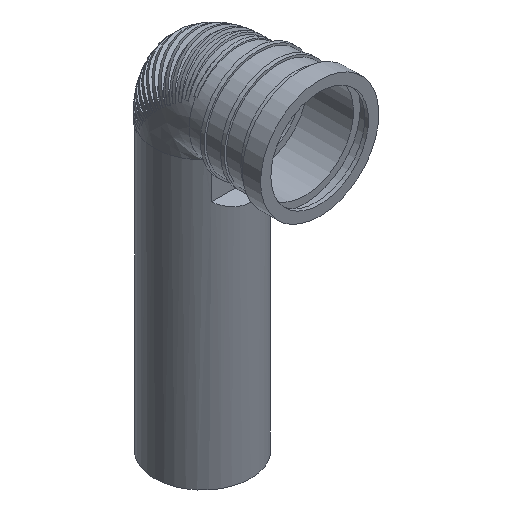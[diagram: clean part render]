
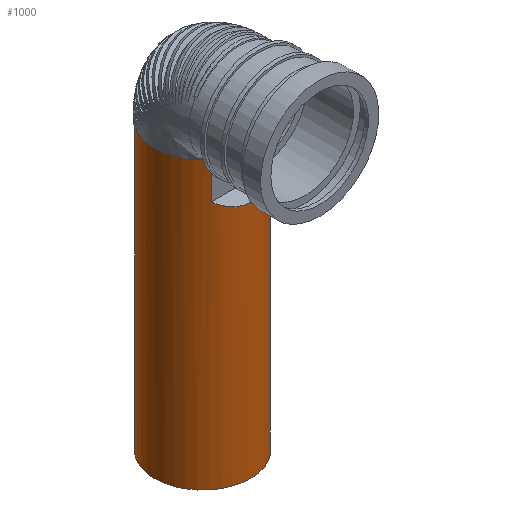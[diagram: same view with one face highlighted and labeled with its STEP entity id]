
A CAD part, isometric view. The second image highlights one B-rep face of the part: STEP entity #1000.
In plain terms, the highlighted cylindrical face has radius 45.188 mm (diameter 90.375 mm), a full revolution.
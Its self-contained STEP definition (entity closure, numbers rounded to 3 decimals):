
#21=LINE('',#2350,#31);
#22=LINE('',#2352,#32);
#23=LINE('',#2355,#33);
#24=LINE('',#2356,#34);
#31=VECTOR('',#1290,1.62);
#32=VECTOR('',#1291,31.212);
#33=VECTOR('',#1294,31.213);
#34=VECTOR('',#1295,1.62);
#39=ELLIPSE('',#1113,63.905,45.188);
#40=ELLIPSE('',#1114,63.905,45.188);
#41=ELLIPSE('',#1117,63.905,45.188);
#106=B_SPLINE_CURVE_WITH_KNOTS('',3,(#2324,#2325,#2326,#2327,#2328,#2329,
#2330,#2331,#2332,#2333,#2334,#2335,#2336,#2337,#2338,#2339,#2340,#2341,
#2342,#2343,#2344,#2345,#2346,#2347,#2348,#2349),.UNSPECIFIED.,.F.,.F.,
(4,2,2,2,2,2,2,2,2,2,2,2,4),(-11.364,-11.064,-10.213,
-9.362,-8.511,-7.66,-6.809,
-5.958,-5.107,-4.255,-3.404,
-2.553,-2.253),.UNSPECIFIED.);
#172=FACE_BOUND('',#294,.T.);
#202=FACE_OUTER_BOUND('',#293,.T.);
#293=EDGE_LOOP('',(#766,#767,#768,#769,#770,#771,#772,#773,#774,#775));
#294=EDGE_LOOP('',(#776));
#387=CIRCLE('',#1107,45.188);
#388=CIRCLE('',#1108,45.188);
#392=CIRCLE('',#1118,45.188);
#449=VERTEX_POINT('',#1618);
#450=VERTEX_POINT('',#1620);
#453=VERTEX_POINT('',#1646);
#454=VERTEX_POINT('',#1654);
#502=VERTEX_POINT('',#2284);
#503=VERTEX_POINT('',#2285);
#507=VERTEX_POINT('',#2322);
#508=VERTEX_POINT('',#2323);
#509=VERTEX_POINT('',#2351);
#510=VERTEX_POINT('',#2353);
#511=VERTEX_POINT('',#2357);
#554=EDGE_CURVE('',#450,#449,#387,.T.);
#558=EDGE_CURVE('',#454,#453,#388,.T.);
#609=EDGE_CURVE('',#449,#503,#39,.T.);
#613=EDGE_CURVE('',#454,#502,#40,.T.);
#615=EDGE_CURVE('',#507,#508,#106,.T.);
#616=EDGE_CURVE('',#508,#450,#21,.T.);
#617=EDGE_CURVE('',#503,#509,#22,.T.);
#618=EDGE_CURVE('',#510,#509,#41,.F.);
#619=EDGE_CURVE('',#502,#510,#23,.T.);
#620=EDGE_CURVE('',#507,#453,#24,.T.);
#621=EDGE_CURVE('',#511,#511,#392,.T.);
#766=ORIENTED_EDGE('',*,*,#615,.T.);
#767=ORIENTED_EDGE('',*,*,#616,.T.);
#768=ORIENTED_EDGE('',*,*,#554,.T.);
#769=ORIENTED_EDGE('',*,*,#609,.T.);
#770=ORIENTED_EDGE('',*,*,#617,.T.);
#771=ORIENTED_EDGE('',*,*,#618,.F.);
#772=ORIENTED_EDGE('',*,*,#619,.F.);
#773=ORIENTED_EDGE('',*,*,#613,.F.);
#774=ORIENTED_EDGE('',*,*,#558,.T.);
#775=ORIENTED_EDGE('',*,*,#620,.F.);
#776=ORIENTED_EDGE('',*,*,#621,.F.);
#967=CYLINDRICAL_SURFACE('',#1116,45.188);
#1000=ADVANCED_FACE('',(#202,#172),#967,.T.);
#1107=AXIS2_PLACEMENT_3D('',#1621,#1268,#1269);
#1108=AXIS2_PLACEMENT_3D('',#1655,#1270,#1271);
#1113=AXIS2_PLACEMENT_3D('',#2287,#1280,#1281);
#1114=AXIS2_PLACEMENT_3D('',#2318,#1284,#1285);
#1116=AXIS2_PLACEMENT_3D('',#2321,#1288,#1289);
#1117=AXIS2_PLACEMENT_3D('',#2354,#1292,#1293);
#1118=AXIS2_PLACEMENT_3D('',#2358,#1296,#1297);
#1268=DIRECTION('center_axis',(0.,0.,
-1.));
#1269=DIRECTION('ref_axis',(0.867,0.499,0.));
#1270=DIRECTION('center_axis',(0.,0.,
-1.));
#1271=DIRECTION('ref_axis',(-0.693,-0.721,0.));
#1280=DIRECTION('center_axis',(0.,0.707,-0.707));
#1281=DIRECTION('ref_axis',(0.,-0.707,-0.707));
#1284=DIRECTION('center_axis',(0.,-0.707,0.707));
#1285=DIRECTION('ref_axis',(0.,-0.707,-0.707));
#1288=DIRECTION('center_axis',(0.,0.,-1.));
#1289=DIRECTION('ref_axis',(1.,0.,0.));
#1290=DIRECTION('',(0.,0.,1.));
#1291=DIRECTION('',(0.,0.,-1.));
#1292=DIRECTION('center_axis',(0.,0.707,-0.707));
#1293=DIRECTION('ref_axis',(0.,-0.707,-0.707));
#1294=DIRECTION('',(0.,0.,-1.));
#1295=DIRECTION('',(0.,0.,1.));
#1296=DIRECTION('center_axis',(0.,0.,-1.));
#1297=DIRECTION('ref_axis',(0.479,0.878,0.));
#1618=CARTESIAN_POINT('',(31.33,-32.563,-32.563));
#1620=CARTESIAN_POINT('',(39.169,22.532,-32.563));
#1621=CARTESIAN_POINT('Origin',(0.,0.,
-32.563));
#1646=CARTESIAN_POINT('',(-39.169,22.532,-32.563));
#1654=CARTESIAN_POINT('',(-31.33,-32.563,-32.563));
#1655=CARTESIAN_POINT('Origin',(0.,0.,
-32.563));
#2284=CARTESIAN_POINT('',(-27.573,-35.8,-35.8));
#2285=CARTESIAN_POINT('',(27.573,-35.8,-35.8));
#2287=CARTESIAN_POINT('Origin',(0.,0.,0.));
#2318=CARTESIAN_POINT('Origin',(0.,0.,0.));
#2321=CARTESIAN_POINT('Origin',(0.,0.,-166.781));
#2322=CARTESIAN_POINT('',(-39.169,22.532,-34.183));
#2323=CARTESIAN_POINT('',(39.169,22.532,-34.182));
#2324=CARTESIAN_POINT('Ctrl Pts',(-39.169,22.532,-34.182));
#2325=CARTESIAN_POINT('Ctrl Pts',(-38.642,23.448,-34.188));
#2326=CARTESIAN_POINT('Ctrl Pts',(-38.085,24.343,-34.193));
#2327=CARTESIAN_POINT('Ctrl Pts',(-35.841,27.68,-34.213));
#2328=CARTESIAN_POINT('Ctrl Pts',(-33.958,29.946,-34.227));
#2329=CARTESIAN_POINT('Ctrl Pts',(-29.946,33.958,-34.251));
#2330=CARTESIAN_POINT('Ctrl Pts',(-27.68,35.841,-34.262));
#2331=CARTESIAN_POINT('Ctrl Pts',(-22.744,39.159,-34.282));
#2332=CARTESIAN_POINT('Ctrl Pts',(-20.076,40.595,-34.291));
#2333=CARTESIAN_POINT('Ctrl Pts',(-14.509,42.901,-34.305));
#2334=CARTESIAN_POINT('Ctrl Pts',(-11.607,43.773,-34.31));
#2335=CARTESIAN_POINT('Ctrl Pts',(-5.771,44.916,-34.317));
#2336=CARTESIAN_POINT('Ctrl Pts',(-2.837,45.188,-34.319));
#2337=CARTESIAN_POINT('Ctrl Pts',(2.837,45.188,-34.319));
#2338=CARTESIAN_POINT('Ctrl Pts',(5.771,44.916,-34.317));
#2339=CARTESIAN_POINT('Ctrl Pts',(11.607,43.773,-34.31));
#2340=CARTESIAN_POINT('Ctrl Pts',(14.509,42.901,-34.305));
#2341=CARTESIAN_POINT('Ctrl Pts',(20.076,40.595,-34.291));
#2342=CARTESIAN_POINT('Ctrl Pts',(22.745,39.159,-34.282));
#2343=CARTESIAN_POINT('Ctrl Pts',(27.68,35.841,-34.262));
#2344=CARTESIAN_POINT('Ctrl Pts',(29.946,33.958,-34.251));
#2345=CARTESIAN_POINT('Ctrl Pts',(33.958,29.946,-34.227));
#2346=CARTESIAN_POINT('Ctrl Pts',(35.841,27.68,-34.213));
#2347=CARTESIAN_POINT('Ctrl Pts',(38.085,24.342,-34.193));
#2348=CARTESIAN_POINT('Ctrl Pts',(38.642,23.448,-34.188));
#2349=CARTESIAN_POINT('Ctrl Pts',(39.169,22.532,-34.182));
#2350=CARTESIAN_POINT('',(39.169,22.532,-34.183));
#2351=CARTESIAN_POINT('',(27.573,-35.8,-67.013));
#2352=CARTESIAN_POINT('',(27.573,-35.8,-35.8));
#2353=CARTESIAN_POINT('',(-27.573,-35.8,-67.013));
#2354=CARTESIAN_POINT('Origin',(0.,0.,-31.213));
#2355=CARTESIAN_POINT('',(-27.573,-35.8,-35.8));
#2356=CARTESIAN_POINT('',(-39.169,22.532,-34.183));
#2357=CARTESIAN_POINT('',(21.664,39.656,-301.));
#2358=CARTESIAN_POINT('Origin',(0.,0.,-301.));
